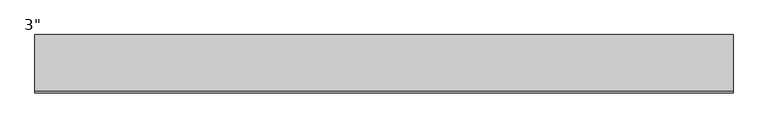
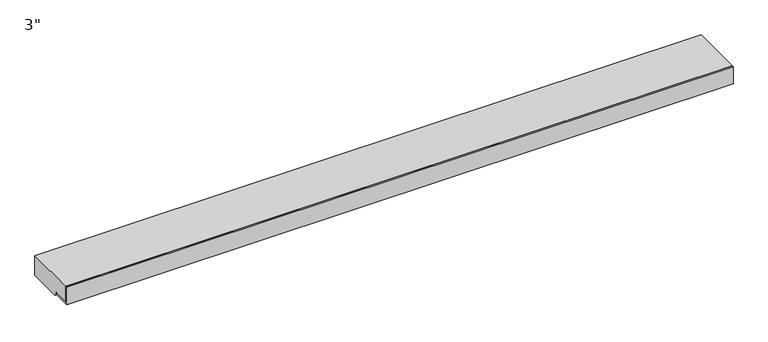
"""IFC4 building model written with IfcOpenShell, lengths in millimetres: proxy geometry."""

from ifc_helpers import new_model, si_unit, frame, origin, place, context, project, spatial, polyline, outline, extrude, faceted_brep, source, transform, mapped, element, save


def proxy_b027fc18(model_context):
    return source(origin(), model_context, "Body", "SolidModel", [
        faceted_brep([(1219.2, 101.6, 0.0), (1219.2, 101.6, 76.2), (1219.2, -95.25, 76.2), (1219.2, -95.25, 15.875), (1219.2, -34.925, 15.875), (1219.2, -34.925, 9.525), (1219.2, -25.4, 0.0), (-1219.2, 101.6, 0.0), (-1219.2, -25.4, 0.0), (-1219.2, -34.925, 9.525), (-1219.2, -34.925, 15.875), (-1219.2, -95.25, 15.875), (-1219.2, -95.25, 76.2), (-1219.2, 101.6, 76.2), (1149.35, 101.6, 0.0), (1158.875, 101.6, 9.525), (1127.125, 101.6, 9.525), (1136.65, 101.6, 0.0), (996.95, 101.6, 0.0), (1006.475, 101.6, 9.525), (974.725, 101.6, 9.525), (984.25, 101.6, 0.0), (844.55, 101.6, 0.0), (854.075, 101.6, 9.525), (822.325, 101.6, 9.525), (831.85, 101.6, 0.0), (692.15, 101.6, 0.0), (701.675, 101.6, 9.525), (669.925, 101.6, 9.525), (679.45, 101.6, 0.0), (539.75, 101.6, 0.0), (549.275, 101.6, 9.525), (517.525, 101.6, 9.525), (527.05, 101.6, 0.0), (387.35, 101.6, 0.0), (396.875, 101.6, 9.525), (365.125, 101.6, 9.525), (374.65, 101.6, 0.0), (234.95, 101.6, 0.0), (244.475, 101.6, 9.525), (212.725, 101.6, 9.525), (222.25, 101.6, 0.0), (82.55, 101.6, 0.0), (92.075, 101.6, 9.525), (60.325, 101.6, 9.525), (69.85, 101.6, 0.0), (-69.85, 101.6, 0.0), (-60.325, 101.6, 9.525), (-92.075, 101.6, 9.525), (-82.55, 101.6, 0.0), (-222.25, 101.6, 0.0), (-212.725, 101.6, 9.525), (-244.475, 101.6, 9.525), (-234.95, 101.6, 0.0), (-374.65, 101.6, 0.0), (-365.125, 101.6, 9.525), (-396.875, 101.6, 9.525), (-387.35, 101.6, 0.0), (-527.05, 101.6, 0.0), (-517.525, 101.6, 9.525), (-549.275, 101.6, 9.525), (-539.75, 101.6, 0.0), (-679.45, 101.6, 0.0), (-669.925, 101.6, 9.525), (-701.675, 101.6, 9.525), (-692.15, 101.6, 0.0), (-831.85, 101.6, 0.0), (-822.325, 101.6, 9.525), (-854.075, 101.6, 9.525), (-844.55, 101.6, 0.0), (-984.25, 101.6, 0.0), (-974.725, 101.6, 9.525), (-1006.475, 101.6, 9.525), (-996.95, 101.6, 0.0), (-1136.65, 101.6, 0.0), (-1127.125, 101.6, 9.525), (-1158.875, 101.6, 9.525), (-1149.35, 101.6, 0.0), (1149.35, -25.4, 0.0), (-1149.35, -25.4, 0.0), (1136.65, -25.4, 0.0), (996.95, -25.4, 0.0), (984.25, -25.4, 0.0), (844.55, -25.4, 0.0), (831.85, -25.4, 0.0), (692.15, -25.4, 0.0), (679.45, -25.4, 0.0), (539.75, -25.4, 0.0), (527.05, -25.4, 0.0), (387.35, -25.4, 0.0), (374.65, -25.4, 0.0), (234.95, -25.4, 0.0), (222.25, -25.4, 0.0), (82.55, -25.4, 0.0), (69.85, -25.4, 0.0), (-69.85, -25.4, 0.0), (-82.55, -25.4, 0.0), (-222.25, -25.4, 0.0), (-234.95, -25.4, 0.0), (-374.65, -25.4, 0.0), (-387.35, -25.4, 0.0), (-527.05, -25.4, 0.0), (-539.75, -25.4, 0.0), (-679.45, -25.4, 0.0), (-692.15, -25.4, 0.0), (-831.85, -25.4, 0.0), (-844.55, -25.4, 0.0), (-984.25, -25.4, 0.0), (-996.95, -25.4, 0.0), (-1136.65, -25.4, 0.0), (-1158.875, -34.925, 9.525), (-1127.125, -34.925, 9.525), (-1006.475, -34.925, 9.525), (-974.725, -34.925, 9.525), (-854.075, -34.925, 9.525), (-822.325, -34.925, 9.525), (-701.675, -34.925, 9.525), (-669.925, -34.925, 9.525), (-549.275, -34.925, 9.525), (-517.525, -34.925, 9.525), (-396.875, -34.925, 9.525), (-365.125, -34.925, 9.525), (-244.475, -34.925, 9.525), (-212.725, -34.925, 9.525), (-92.075, -34.925, 9.525), (-60.325, -34.925, 9.525), (60.325, -34.925, 9.525), (92.075, -34.925, 9.525), (212.725, -34.925, 9.525), (244.475, -34.925, 9.525), (365.125, -34.925, 9.525), (396.875, -34.925, 9.525), (517.525, -34.925, 9.525), (549.275, -34.925, 9.525), (669.925, -34.925, 9.525), (701.675, -34.925, 9.525), (822.325, -34.925, 9.525), (854.075, -34.925, 9.525), (974.725, -34.925, 9.525), (1006.475, -34.925, 9.525), (1127.125, -34.925, 9.525), (1158.875, -34.925, 9.525)], [[[0, 1, 2, 3, 4, 5, 6]], [[7, 8, 9, 10, 11, 12, 13]], [[4, 3, 11, 10]], [[3, 2, 12, 11]], [[2, 1, 13, 12]], [[1, 0, 14, 15, 16, 17, 18, 19, 20, 21, 22, 23, 24, 25, 26, 27, 28, 29, 30, 31, 32, 33, 34, 35, 36, 37, 38, 39, 40, 41, 42, 43, 44, 45, 46, 47, 48, 49, 50, 51, 52, 53, 54, 55, 56, 57, 58, 59, 60, 61, 62, 63, 64, 65, 66, 67, 68, 69, 70, 71, 72, 73, 74, 75, 76, 77, 7, 13]], [[0, 6, 78, 14]], [[8, 7, 77, 79]], [[18, 17, 80, 81]], [[22, 21, 82, 83]], [[26, 25, 84, 85]], [[30, 29, 86, 87]], [[34, 33, 88, 89]], [[38, 37, 90, 91]], [[42, 41, 92, 93]], [[46, 45, 94, 95]], [[50, 49, 96, 97]], [[54, 53, 98, 99]], [[58, 57, 100, 101]], [[62, 61, 102, 103]], [[66, 65, 104, 105]], [[70, 69, 106, 107]], [[74, 73, 108, 109]], [[5, 4, 10, 9, 110, 111, 112, 113, 114, 115, 116, 117, 118, 119, 120, 121, 122, 123, 124, 125, 126, 127, 128, 129, 130, 131, 132, 133, 134, 135, 136, 137, 138, 139, 140, 141]], [[141, 15, 14, 78]], [[16, 140, 80, 17]], [[15, 141, 140, 16]], [[139, 19, 18, 81]], [[20, 138, 82, 21]], [[19, 139, 138, 20]], [[137, 23, 22, 83]], [[24, 136, 84, 25]], [[23, 137, 136, 24]], [[135, 27, 26, 85]], [[28, 134, 86, 29]], [[27, 135, 134, 28]], [[133, 31, 30, 87]], [[32, 132, 88, 33]], [[31, 133, 132, 32]], [[131, 35, 34, 89]], [[36, 130, 90, 37]], [[35, 131, 130, 36]], [[129, 39, 38, 91]], [[40, 128, 92, 41]], [[39, 129, 128, 40]], [[127, 43, 42, 93]], [[44, 126, 94, 45]], [[43, 127, 126, 44]], [[125, 47, 46, 95]], [[48, 124, 96, 49]], [[47, 125, 124, 48]], [[123, 51, 50, 97]], [[52, 122, 98, 53]], [[51, 123, 122, 52]], [[121, 55, 54, 99]], [[56, 120, 100, 57]], [[55, 121, 120, 56]], [[119, 59, 58, 101]], [[60, 118, 102, 61]], [[59, 119, 118, 60]], [[117, 63, 62, 103]], [[64, 116, 104, 65]], [[63, 117, 116, 64]], [[115, 67, 66, 105]], [[68, 114, 106, 69]], [[67, 115, 114, 68]], [[113, 71, 70, 107]], [[72, 112, 108, 73]], [[71, 113, 112, 72]], [[111, 75, 74, 109]], [[76, 110, 79, 77]], [[75, 111, 110, 76]], [[6, 5, 141, 78]], [[9, 8, 79, 110]], [[112, 111, 109, 108]], [[114, 113, 107, 106]], [[116, 115, 105, 104]], [[118, 117, 103, 102]], [[120, 119, 101, 100]], [[122, 121, 99, 98]], [[124, 123, 97, 96]], [[126, 125, 95, 94]], [[128, 127, 93, 92]], [[130, 129, 91, 90]], [[132, 131, 89, 88]], [[134, 133, 87, 86]], [[136, 135, 85, 84]], [[138, 137, 83, 82]], [[140, 139, 81, 80]]]),
        extrude(outline(polyline([(-101.6, 76.2), (-95.25, 76.2), (-95.25, 15.875), (-34.925, 15.875), (-34.925, 9.525), (-101.6, 9.525), (-101.6, 76.2)])), frame((-1219.2, 0.0, 0.0), z_axis=(1.0, 0.0, 0.0), x_axis=(0.0, 1.0, 0.0)), (0.0, 0.0, 1.0), 2438.4),
    ])


if __name__ == "__main__":
    model = new_model("IFC4")
    model_context = context("Model", 3, world=origin())
    ifc_project = project(units=[si_unit("LENGTHUNIT", "METRE", prefix="MILLI")], contexts=[model_context])
    site = spatial("IfcSite", under=ifc_project)
    building = spatial("IfcBuilding", under=site)
    placement = place(None, origin())
    proxy_shape = proxy_b027fc18(model_context)
    element("IfcBuildingElementProxy", 1, Name="Durabond Generic Model Flexlite Vent Board : 3\"", ObjectType="Durabond Generic Model Flexlite Vent Board : 3\"", at=placement, inside=building, context=model_context, shape_type="MappedRepresentation", body=[
        mapped(proxy_shape, transform((0.0, 0.0, 0.0), x_axis=(1.0, 0.0, 0.0), y_axis=(0.0, 1.0, 0.0), z_axis=(0.0, 0.0, 1.0))),
    ])
    save(model, "model.ifc")
